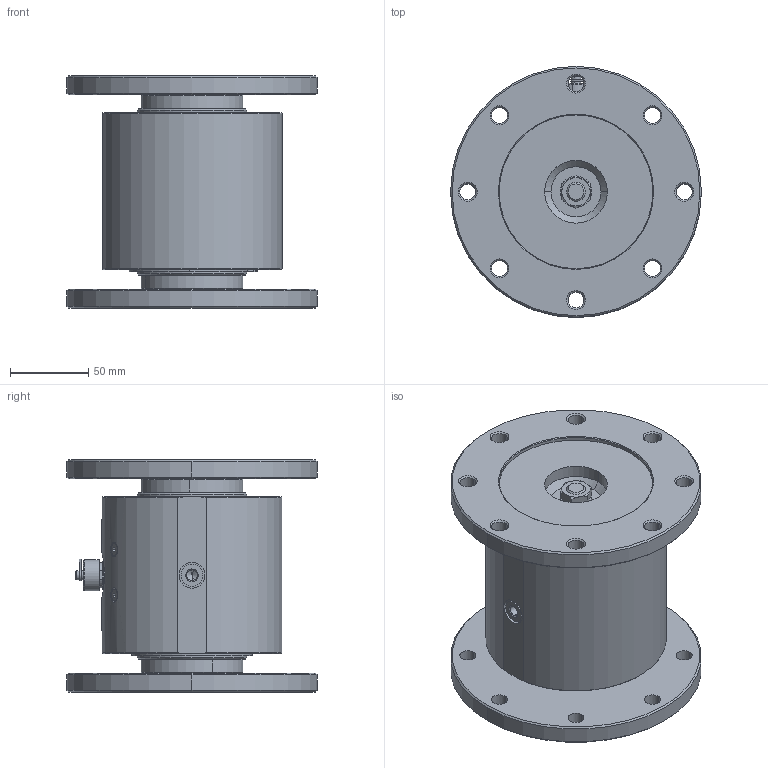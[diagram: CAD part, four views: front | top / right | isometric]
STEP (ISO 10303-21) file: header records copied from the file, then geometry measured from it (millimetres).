
FILE_DESCRIPTION (( 'STEP AP203' ), '1' );
FILE_NAME ('400012-ATS020_Sensor_mit_Flanschen für Kunden.STEP', '2018-10-16T07:18:02', ( '' ), ( '' ), 'SwSTEP 2.0', 'SolidWorks 2016', '' );
FILE_SCHEMA (( 'CONFIG_CONTROL_DESIGN' ));
Length unit declared in the file: millimetre
Products named in the file (22): 400012-ATS020_Sensor_mit_Flanschen f黵 Kunden; 400012-ATM010_Träger_Speedsensor; DIN 988-90x110x0.5_DIN 988-90x110x0.5; 400012-ATM005_Einpressbuchse; 400012-ATM071_Flansch LK138 8xM12 gehärtet Gewinde; Sechskantschraube mit Gewinde bis Kopf ISO 4017_ISO 4017 - M12 x 130-S; Kugellager DIN 625_DIN 625 - 6014 - 18,DE,NC,18_68; Sechskantmutter ISO 4035_Hexagon Thin Nut ISO 4035 - M12 - S; 400012-ATS001_SSU alle Konfigurationen_IP50_Speedsensor 1CPR; 400012-ATM001_Messwelle; 400012-ATM006_Speedsensor 1CPR; Circlip DIN 471 - 70 x 2.5_Circlip DIN 471 - 70 x 2.5; 999999-ATN210_Selbsthemmende_Sicherungsscheibe_M12_Standard; O-Ring DIN 3771_O-ring DIN 3771 - 67x2.5; 400012-ATM011_Distanzring; 400012-ATM072_Flansch LK138 8xM12 gehärtet Bohrung; 999999-ATN123_Kugellagerausgleichsscheibe_Standard; DIN 7991 - M4 x 10 --- 10S_DIN 7991 - M4 x 10 --- 10S; 999999-ATE135_Binder-Schutzkappe-Abdeckung_08-1079-000-000_Standard; 400012-ATS040_Elektronik_PCB F1 CAN - 0-10V - Winkelsensor; 400012-ATM002_Gehäuse; 999999-ATE079_Stecker-09-0131-90-12_12Pol_Standard
Assembly tree (27 placements, depth 4):
  400012-ATS020_Sensor_mit_Flanschen f黵 Kunden
    400012-ATS001_SSU alle Konfigurationen_IP50_Speedsensor 1CPR
      400012-ATM001_Messwelle
      400012-ATM002_Gehäuse
      400012-ATM005_Einpressbuchse
      Circlip DIN 471 - 70 x 2.5_Circlip DIN 471 - 70 x 2.5  x2
      999999-ATN123_Kugellagerausgleichsscheibe_Standard
      DIN 988-90x110x0.5_DIN 988-90x110x0.5
      DIN 7991 - M4 x 10 --- 10S_DIN 7991 - M4 x 10 --- 10S  x4
      400012-ATS040_Elektronik_PCB F1 CAN - 0-10V - Winkelsensor
        999999-ATE079_Stecker-09-0131-90-12_12Pol_Standard
      Kugellager DIN 625_DIN 625 - 6014 - 18,DE,NC,18_68  x2
      400012-ATM010_Träger_Speedsensor
      400012-ATM006_Speedsensor 1CPR
      O-Ring DIN 3771_O-ring DIN 3771 - 67x2.5
    400012-ATM011_Distanzring  x2
    999999-ATE135_Binder-Schutzkappe-Abdeckung_08-1079-000-000_Standard
    Sechskantschraube mit Gewinde bis Kopf ISO 4017_ISO 4017 - M12 x 130-S
    999999-ATN210_Selbsthemmende_Sicherungsscheibe_M12_Standard
    Sechskantmutter ISO 4035_Hexagon Thin Nut ISO 4035 - M12 - S
    400012-ATM072_Flansch LK138 8xM12 gehärtet Bohrung
    400012-ATM071_Flansch LK138 8xM12 gehärtet Gewinde
Bounding box: 160 x 160 x 148 mm (x, y, z)
Volume: 1049820 mm3; surface area: 374009.7 mm2
Topology: 24 solids, 61 shells, 2962 faces, 8379 edges, 5368 vertices
Faces by surface type: plane 891, cylinder 887, cone 882, torus 177, sphere 72, bspline 53
Entity records: 90501 total; most frequent: CARTESIAN_POINT 22515, DIRECTION 14156, ORIENTED_EDGE 13918, EDGE_CURVE 6971, AXIS2_PLACEMENT_3D 5670, VERTEX_POINT 4526, CIRCLE 3139, LINE 2816
